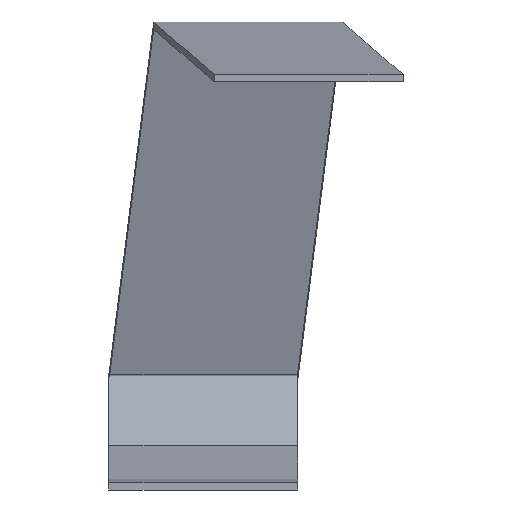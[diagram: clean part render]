
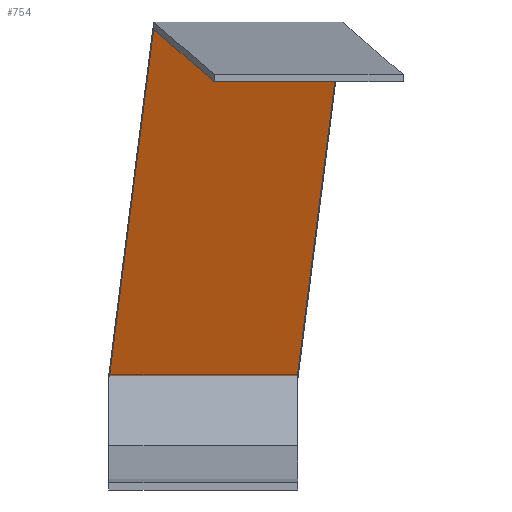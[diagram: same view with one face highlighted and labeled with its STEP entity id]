
A CAD part, top view. The second image highlights one B-rep face of the part: STEP entity #754.
In plain terms, the highlighted free-form (B-spline) face has degree [1, 1] with [2, 2] control points.
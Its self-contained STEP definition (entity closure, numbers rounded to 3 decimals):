
#380 = PLANE('',#381);
#381 = AXIS2_PLACEMENT_3D('',#382,#383,#384);
#382 = CARTESIAN_POINT('',(-2.95,19.885,-26.7));
#383 = DIRECTION('',(-0.,0.79,0.613));
#384 = DIRECTION('',(1.,0.,0.));
#552 = VERTEX_POINT('',#553);
#553 = CARTESIAN_POINT('',(2.95,19.885,-26.7));
#572 = EDGE_CURVE('',#573,#552,#575,.T.);
#573 = VERTEX_POINT('',#574);
#574 = CARTESIAN_POINT('',(-2.95,19.885,-26.7));
#575 = SURFACE_CURVE('',#576,(#580,#587),.PCURVE_S1.);
#576 = LINE('',#577,#578);
#577 = CARTESIAN_POINT('',(-2.95,19.885,-26.7));
#578 = VECTOR('',#579,1.);
#579 = DIRECTION('',(1.,0.,0.));
#580 = PCURVE('',#380,#581);
#581 = DEFINITIONAL_REPRESENTATION('',(#582),#586);
#582 = LINE('',#583,#584);
#583 = CARTESIAN_POINT('',(0.,0.));
#584 = VECTOR('',#585,1.);
#585 = DIRECTION('',(1.,0.));
#586 = ( GEOMETRIC_REPRESENTATION_CONTEXT(2) 
PARAMETRIC_REPRESENTATION_CONTEXT() REPRESENTATION_CONTEXT('2D SPACE',''
  ) );
#587 = PCURVE('',#588,#593);
#588 = B_SPLINE_SURFACE_WITH_KNOTS('',1,1,(
    (#589,#590)
    ,(#591,#592
  )),.UNSPECIFIED.,.F.,.F.,.F.,(2,2),(2,2),(0.,5.9),(0.,1.),
  .PIECEWISE_BEZIER_KNOTS.);
#589 = CARTESIAN_POINT('',(-2.95,19.885,-26.7));
#590 = CARTESIAN_POINT('',(-1.55,30.885,-23.));
#591 = CARTESIAN_POINT('',(2.95,19.885,-26.7));
#592 = CARTESIAN_POINT('',(4.35,30.885,-23.));
#593 = DEFINITIONAL_REPRESENTATION('',(#594),#598);
#594 = LINE('',#595,#596);
#595 = CARTESIAN_POINT('',(0.,0.));
#596 = VECTOR('',#597,1.);
#597 = DIRECTION('',(1.,0.));
#598 = ( GEOMETRIC_REPRESENTATION_CONTEXT(2) 
PARAMETRIC_REPRESENTATION_CONTEXT() REPRESENTATION_CONTEXT('2D SPACE',''
  ) );
#658 = B_SPLINE_SURFACE_WITH_KNOTS('',1,1,(
    (#659,#660)
    ,(#661,#662
    )),.UNSPECIFIED.,.F.,.F.,.F.,(2,2),(2,2),(0.,0.23),(0.,1.),
  .PIECEWISE_BEZIER_KNOTS.);
#659 = CARTESIAN_POINT('',(2.95,19.885,-26.7));
#660 = CARTESIAN_POINT('',(4.35,30.885,-23.));
#661 = CARTESIAN_POINT('',(2.95,20.115,-26.7));
#662 = CARTESIAN_POINT('',(4.35,31.115,-23.));
#742 = B_SPLINE_SURFACE_WITH_KNOTS('',1,1,(
    (#743,#744)
    ,(#745,#746
    )),.UNSPECIFIED.,.F.,.F.,.F.,(2,2),(2,2),(0.,0.23),(0.,1.),
  .PIECEWISE_BEZIER_KNOTS.);
#743 = CARTESIAN_POINT('',(-2.95,20.115,-26.7));
#744 = CARTESIAN_POINT('',(-1.55,31.115,-23.));
#745 = CARTESIAN_POINT('',(-2.95,19.885,-26.7));
#746 = CARTESIAN_POINT('',(-1.55,30.885,-23.));
#754 = ADVANCED_FACE('',(#755),#588,.F.);
#755 = FACE_BOUND('',#756,.F.);
#756 = EDGE_LOOP('',(#757,#758,#780,#808));
#757 = ORIENTED_EDGE('',*,*,#572,.T.);
#758 = ORIENTED_EDGE('',*,*,#759,.T.);
#759 = EDGE_CURVE('',#552,#760,#762,.T.);
#760 = VERTEX_POINT('',#761);
#761 = CARTESIAN_POINT('',(4.35,30.885,-23.));
#762 = SURFACE_CURVE('',#763,(#766,#773),.PCURVE_S1.);
#763 = B_SPLINE_CURVE_WITH_KNOTS('',1,(#764,#765),.UNSPECIFIED.,.F.,.F.,
  (2,2),(0.,1.),.PIECEWISE_BEZIER_KNOTS.);
#764 = CARTESIAN_POINT('',(2.95,19.885,-26.7));
#765 = CARTESIAN_POINT('',(4.35,30.885,-23.));
#766 = PCURVE('',#588,#767);
#767 = DEFINITIONAL_REPRESENTATION('',(#768),#772);
#768 = LINE('',#769,#770);
#769 = CARTESIAN_POINT('',(5.9,0.));
#770 = VECTOR('',#771,1.);
#771 = DIRECTION('',(0.,1.));
#772 = ( GEOMETRIC_REPRESENTATION_CONTEXT(2) 
PARAMETRIC_REPRESENTATION_CONTEXT() REPRESENTATION_CONTEXT('2D SPACE',''
  ) );
#773 = PCURVE('',#658,#774);
#774 = DEFINITIONAL_REPRESENTATION('',(#775),#779);
#775 = LINE('',#776,#777);
#776 = CARTESIAN_POINT('',(0.,0.));
#777 = VECTOR('',#778,1.);
#778 = DIRECTION('',(0.,1.));
#779 = ( GEOMETRIC_REPRESENTATION_CONTEXT(2) 
PARAMETRIC_REPRESENTATION_CONTEXT() REPRESENTATION_CONTEXT('2D SPACE',''
  ) );
#780 = ORIENTED_EDGE('',*,*,#781,.F.);
#781 = EDGE_CURVE('',#782,#760,#784,.T.);
#782 = VERTEX_POINT('',#783);
#783 = CARTESIAN_POINT('',(-1.55,30.885,-23.));
#784 = SURFACE_CURVE('',#785,(#789,#796),.PCURVE_S1.);
#785 = LINE('',#786,#787);
#786 = CARTESIAN_POINT('',(-1.55,30.885,-23.));
#787 = VECTOR('',#788,1.);
#788 = DIRECTION('',(1.,0.,0.));
#789 = PCURVE('',#588,#790);
#790 = DEFINITIONAL_REPRESENTATION('',(#791),#795);
#791 = LINE('',#792,#793);
#792 = CARTESIAN_POINT('',(0.,1.));
#793 = VECTOR('',#794,1.);
#794 = DIRECTION('',(1.,0.));
#795 = ( GEOMETRIC_REPRESENTATION_CONTEXT(2) 
PARAMETRIC_REPRESENTATION_CONTEXT() REPRESENTATION_CONTEXT('2D SPACE',''
  ) );
#796 = PCURVE('',#797,#802);
#797 = B_SPLINE_SURFACE_WITH_KNOTS('',1,1,(
    (#798,#799)
    ,(#800,#801
  )),.UNSPECIFIED.,.F.,.F.,.F.,(2,2),(2,2),(0.,5.9),(0.,1.),
  .PIECEWISE_BEZIER_KNOTS.);
#798 = CARTESIAN_POINT('',(-1.55,30.885,-23.));
#799 = CARTESIAN_POINT('',(0.35,29.225,-14.));
#800 = CARTESIAN_POINT('',(4.35,30.885,-23.));
#801 = CARTESIAN_POINT('',(6.25,29.225,-14.));
#802 = DEFINITIONAL_REPRESENTATION('',(#803),#807);
#803 = LINE('',#804,#805);
#804 = CARTESIAN_POINT('',(0.,0.));
#805 = VECTOR('',#806,1.);
#806 = DIRECTION('',(1.,0.));
#807 = ( GEOMETRIC_REPRESENTATION_CONTEXT(2) 
PARAMETRIC_REPRESENTATION_CONTEXT() REPRESENTATION_CONTEXT('2D SPACE',''
  ) );
#808 = ORIENTED_EDGE('',*,*,#809,.F.);
#809 = EDGE_CURVE('',#573,#782,#810,.T.);
#810 = SURFACE_CURVE('',#811,(#814,#821),.PCURVE_S1.);
#811 = B_SPLINE_CURVE_WITH_KNOTS('',1,(#812,#813),.UNSPECIFIED.,.F.,.F.,
  (2,2),(0.,1.),.PIECEWISE_BEZIER_KNOTS.);
#812 = CARTESIAN_POINT('',(-2.95,19.885,-26.7));
#813 = CARTESIAN_POINT('',(-1.55,30.885,-23.));
#814 = PCURVE('',#588,#815);
#815 = DEFINITIONAL_REPRESENTATION('',(#816),#820);
#816 = LINE('',#817,#818);
#817 = CARTESIAN_POINT('',(0.,0.));
#818 = VECTOR('',#819,1.);
#819 = DIRECTION('',(0.,1.));
#820 = ( GEOMETRIC_REPRESENTATION_CONTEXT(2) 
PARAMETRIC_REPRESENTATION_CONTEXT() REPRESENTATION_CONTEXT('2D SPACE',''
  ) );
#821 = PCURVE('',#742,#822);
#822 = DEFINITIONAL_REPRESENTATION('',(#823),#827);
#823 = LINE('',#824,#825);
#824 = CARTESIAN_POINT('',(0.23,0.));
#825 = VECTOR('',#826,1.);
#826 = DIRECTION('',(0.,1.));
#827 = ( GEOMETRIC_REPRESENTATION_CONTEXT(2) 
PARAMETRIC_REPRESENTATION_CONTEXT() REPRESENTATION_CONTEXT('2D SPACE',''
  ) );
